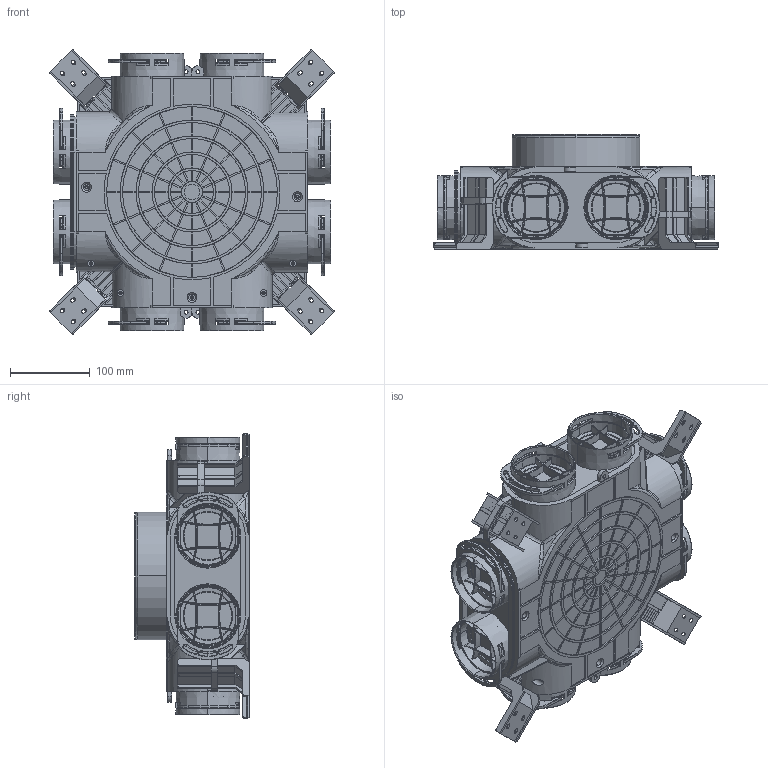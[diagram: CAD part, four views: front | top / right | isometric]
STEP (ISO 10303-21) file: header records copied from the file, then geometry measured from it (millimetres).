
FILE_DESCRIPTION((''),'2;1');
FILE_NAME('VCB160-8_UPR_ASM','2025-12-29T16:00:28',('niepogodzinskij'),(''),'CREO PARAMETRIC BY PTC INC, 2025010','CREO PARAMETRIC BY PTC INC, 2025010','');
FILE_SCHEMA(('CONFIG_CONTROL_DESIGN'));
Length unit declared in the file: millimetre
Products named in the file (6): 0VCBOP_OBUD_VCB_PELNA_1_1_2_3_5; 0VCBP75X2_1_1_2_3_4_5; 0VBWM_WSPORNIK_VPB_VCB_1_1_2__5; 0VCBO160_OBUD_VCB_FI160_1_1; ASM0001_ASM_1_1_2_3_4_5_ASM; VCB160-8_UPR_ASM
Assembly tree (12 placements, depth 3):
  VCB160-8_UPR_ASM
    ASM0001_ASM_1_1_2_3_4_5_ASM
      0VCBOP_OBUD_VCB_PELNA_1_1_2_3_5  x2
      0VCBP75X2_1_1_2_3_4_5  x4
      0VBWM_WSPORNIK_VPB_VCB_1_1_2__5  x4
      0VCBO160_OBUD_VCB_FI160_1_1
Bounding box: 357.57 x 143.7 x 357.57 mm (x, y, z)
Volume: 11636428.2 mm3; surface area: 1191473.6 mm2
Topology: 11 solids, 11 shells, 6772 faces, 18312 edges, 11498 vertices
Faces by surface type: plane 2504, cylinder 1514, torus 1100, bspline 930, cone 578, sphere 146
Entity records: 112660 total; most frequent: CARTESIAN_POINT 45319, ORIENTED_EDGE 14542, DIRECTION 13875, EDGE_CURVE 7271, AXIS2_PLACEMENT_3D 5187, VERTEX_POINT 4661, VECTOR 3501, LINE 3501
